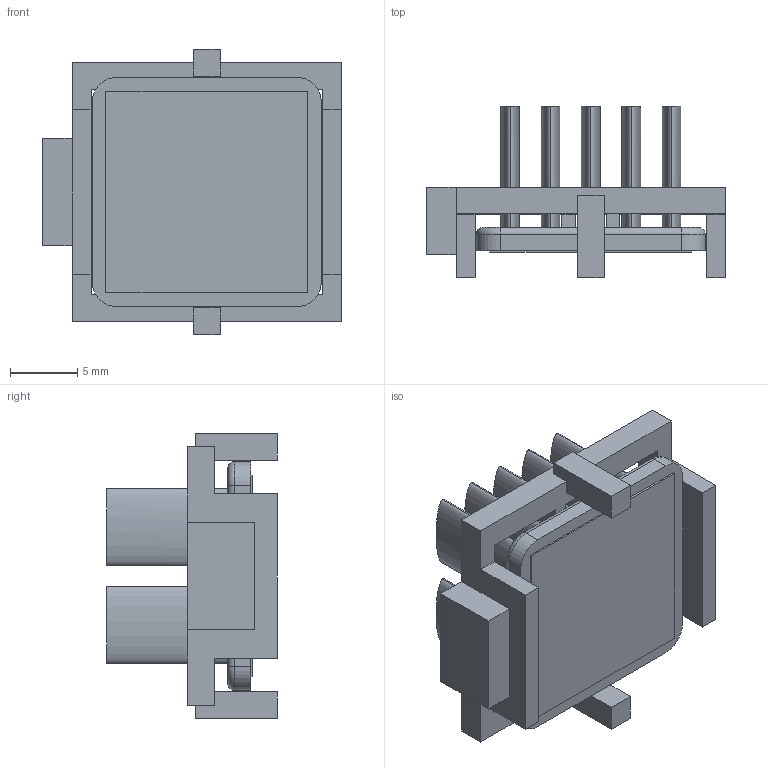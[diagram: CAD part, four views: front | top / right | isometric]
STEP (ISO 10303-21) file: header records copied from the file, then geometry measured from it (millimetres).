
FILE_DESCRIPTION (( 'STEP AP214' ), '1' );
FILE_NAME ('INM17001-11W-1.7Y.STEP', '2023-03-01T23:00:29', ( '' ), ( '' ), 'SwSTEP 2.0', 'SolidWorks 2020', '' );
FILE_SCHEMA (( 'AUTOMOTIVE_DESIGN' ));
Length unit declared in the file: millimetre
Products named in the file (1): INM17001-11W-1.7Y
Bounding box: 22.2 x 12.7 x 21.2 mm (x, y, z)
Volume: 1646.7 mm3; surface area: 3261.6 mm2
Topology: 3 solids, 3 shells, 99 faces, 244 edges, 160 vertices
Faces by surface type: plane 67, bspline 20, cylinder 8, torus 4
Entity records: 4079 total; most frequent: CARTESIAN_POINT 764, ORIENTED_EDGE 488, DIRECTION 384, EDGE_CURVE 244, LINE 184, VECTOR 184, VERTEX_POINT 160, EDGE_LOOP 110
